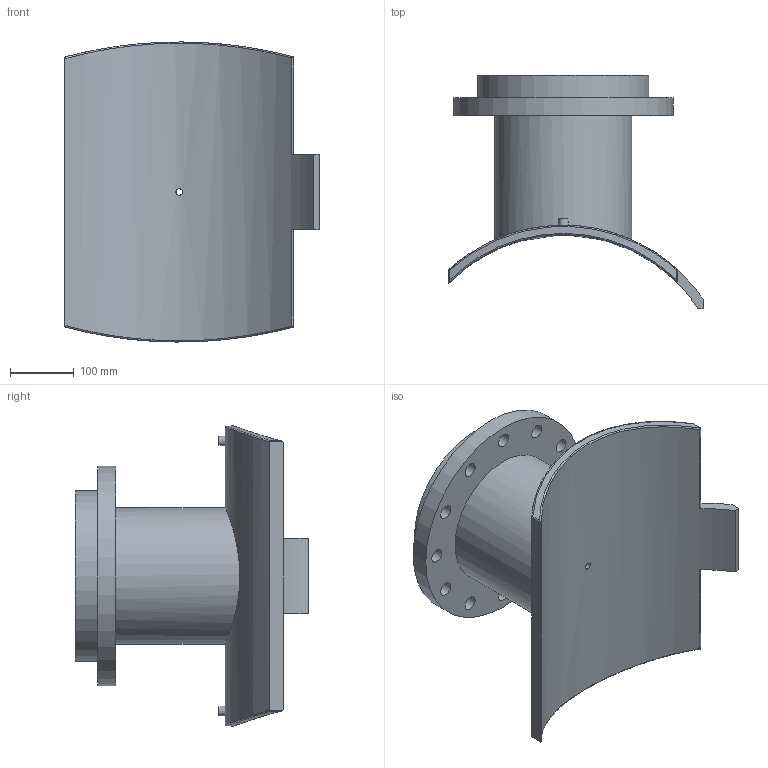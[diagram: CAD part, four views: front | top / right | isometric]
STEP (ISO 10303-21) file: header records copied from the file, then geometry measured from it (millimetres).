
FILE_DESCRIPTION(/* description */ ('PLASSON FLANGED BRANCH SADDLE 500X200'),/* implementation_level */ '2;1');
FILE_NAME(/* name */ 'C:\Dropbox\KIMPROJECTS-Inventor 2019\99-16-3568-Processing\ElectroFusion Fittings\495904_495903\stp\495903500200T.stp',/* time_stamp */ '2024-04-03T21:01:02+02:00',/* author */ ('KIM'),/* organization */ (''),/* preprocessor_version */ 'ST-DEVELOPER v17.2',/* originating_system */ 'Autodesk Inventor 2019',/* authorisation */ '');
FILE_SCHEMA (('AUTOMOTIVE_DESIGN { 1 0 10303 214 3 1 1 }'));
Length unit declared in the file: millimetre
Products named in the file (1): 495903500200T
Bounding box: 398 x 365.64 x 469.99 mm (x, y, z)
Volume: 8705077.2 mm3; surface area: 851963 mm2
Topology: 1 solids, 1 shells, 63 faces, 166 edges, 128 vertices
Faces by surface type: cylinder 36, plane 17, sphere 4, bspline 4, cone 2
Full cylindrical faces by diameter (mm): 4 x2, 10 x2, 10.4 x1, 16 x1, 22 x12, 163 x1, 214.4 x1, 268 x1, 344 x1
Entity records: 2639 total; most frequent: CARTESIAN_POINT 982, DIRECTION 332, ORIENTED_EDGE 304, EDGE_CURVE 152, AXIS2_PLACEMENT_3D 140, VERTEX_POINT 102, EDGE_LOOP 100, CIRCLE 80
